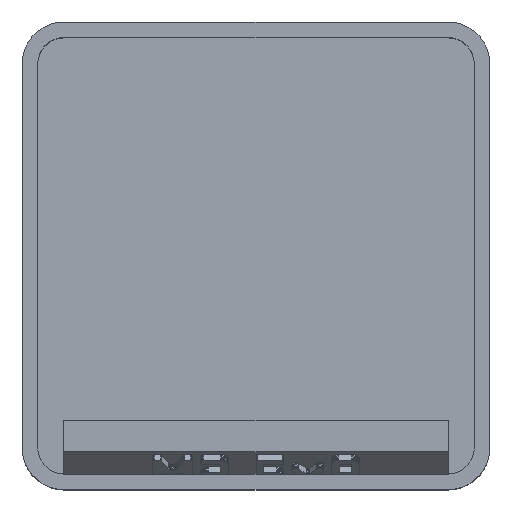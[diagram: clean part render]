
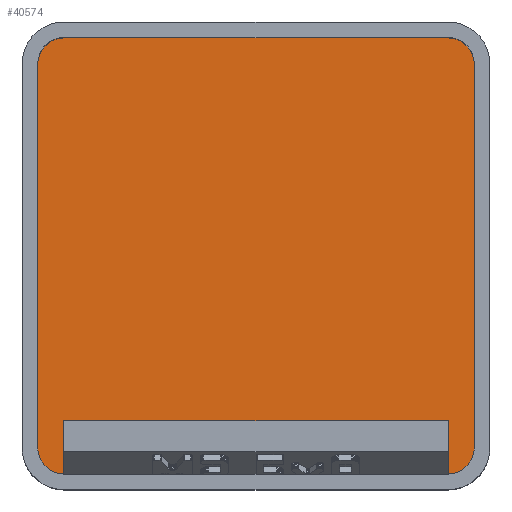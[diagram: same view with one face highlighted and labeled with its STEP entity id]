
A CAD part, top view. The second image highlights one B-rep face of the part: STEP entity #40574.
In plain terms, the highlighted planar face has unit normal (0, 0, 1).
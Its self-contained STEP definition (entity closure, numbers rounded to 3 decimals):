
#912 = PLANE('',#913);
#913 = AXIS2_PLACEMENT_3D('',#914,#915,#916);
#914 = CARTESIAN_POINT('',(-19.6,0.,25.));
#915 = DIRECTION('',(-1.,0.,0.));
#916 = DIRECTION('',(-0.,-1.,-0.));
#940 = CYLINDRICAL_SURFACE('',#941,2.35);
#941 = AXIS2_PLACEMENT_3D('',#942,#943,#944);
#942 = CARTESIAN_POINT('',(-17.25,17.25,5.95));
#943 = DIRECTION('',(-0.,-0.,1.));
#944 = DIRECTION('',(-1.,0.,0.));
#967 = PLANE('',#968);
#968 = AXIS2_PLACEMENT_3D('',#969,#970,#971);
#969 = CARTESIAN_POINT('',(0.,19.6,25.));
#970 = DIRECTION('',(0.,1.,0.));
#971 = DIRECTION('',(-1.,0.,0.));
#995 = CYLINDRICAL_SURFACE('',#996,2.35);
#996 = AXIS2_PLACEMENT_3D('',#997,#998,#999);
#997 = CARTESIAN_POINT('',(17.25,17.25,5.95));
#998 = DIRECTION('',(-0.,-0.,1.));
#999 = DIRECTION('',(-1.,0.,0.));
#1022 = PLANE('',#1023);
#1023 = AXIS2_PLACEMENT_3D('',#1024,#1025,#1026);
#1024 = CARTESIAN_POINT('',(19.6,0.,25.));
#1025 = DIRECTION('',(1.,0.,0.));
#1026 = DIRECTION('',(-0.,1.,0.));
#1050 = CYLINDRICAL_SURFACE('',#1051,2.35);
#1051 = AXIS2_PLACEMENT_3D('',#1052,#1053,#1054);
#1052 = CARTESIAN_POINT('',(17.25,-17.25,5.95));
#1053 = DIRECTION('',(-0.,-0.,1.));
#1054 = DIRECTION('',(-1.,0.,0.));
#1103 = CYLINDRICAL_SURFACE('',#1104,2.35);
#1104 = AXIS2_PLACEMENT_3D('',#1105,#1106,#1107);
#1105 = CARTESIAN_POINT('',(-17.25,-17.25,5.95));
#1106 = DIRECTION('',(-0.,-0.,1.));
#1107 = DIRECTION('',(-1.,0.,0.));
#15033 = EDGE_CURVE('',#15034,#15036,#15038,.T.);
#15034 = VERTEX_POINT('',#15035);
#15035 = CARTESIAN_POINT('',(-19.6,-17.25,5.95));
#15036 = VERTEX_POINT('',#15037);
#15037 = CARTESIAN_POINT('',(-19.6,17.25,5.95));
#15038 = SURFACE_CURVE('',#15039,(#15043,#15050),.PCURVE_S1.);
#15039 = LINE('',#15040,#15041);
#15040 = CARTESIAN_POINT('',(-19.6,0.,5.95));
#15041 = VECTOR('',#15042,1.);
#15042 = DIRECTION('',(0.,1.,0.));
#15043 = PCURVE('',#912,#15044);
#15044 = DEFINITIONAL_REPRESENTATION('',(#15045),#15049);
#15045 = LINE('',#15046,#15047);
#15046 = CARTESIAN_POINT('',(0.,-19.05));
#15047 = VECTOR('',#15048,1.);
#15048 = DIRECTION('',(-1.,0.));
#15049 = ( GEOMETRIC_REPRESENTATION_CONTEXT(2) 
PARAMETRIC_REPRESENTATION_CONTEXT() REPRESENTATION_CONTEXT('2D SPACE',''
  ) );
#15050 = PCURVE('',#15051,#15056);
#15051 = PLANE('',#15052);
#15052 = AXIS2_PLACEMENT_3D('',#15053,#15054,#15055);
#15053 = CARTESIAN_POINT('',(-17.25,-17.25,5.95));
#15054 = DIRECTION('',(0.,0.,-1.));
#15055 = DIRECTION('',(-1.,0.,0.));
#15056 = DEFINITIONAL_REPRESENTATION('',(#15057),#15061);
#15057 = LINE('',#15058,#15059);
#15058 = CARTESIAN_POINT('',(2.35,17.25));
#15059 = VECTOR('',#15060,1.);
#15060 = DIRECTION('',(0.,1.));
#15061 = ( GEOMETRIC_REPRESENTATION_CONTEXT(2) 
PARAMETRIC_REPRESENTATION_CONTEXT() REPRESENTATION_CONTEXT('2D SPACE',''
  ) );
#15108 = EDGE_CURVE('',#15109,#15034,#15111,.T.);
#15109 = VERTEX_POINT('',#15110);
#15110 = CARTESIAN_POINT('',(-17.25,-19.6,5.95));
#15111 = SURFACE_CURVE('',#15112,(#15117,#15124),.PCURVE_S1.);
#15112 = CIRCLE('',#15113,2.35);
#15113 = AXIS2_PLACEMENT_3D('',#15114,#15115,#15116);
#15114 = CARTESIAN_POINT('',(-17.25,-17.25,5.95));
#15115 = DIRECTION('',(0.,0.,-1.));
#15116 = DIRECTION('',(-1.,0.,0.));
#15117 = PCURVE('',#1103,#15118);
#15118 = DEFINITIONAL_REPRESENTATION('',(#15119),#15123);
#15119 = LINE('',#15120,#15121);
#15120 = CARTESIAN_POINT('',(6.283,0.));
#15121 = VECTOR('',#15122,1.);
#15122 = DIRECTION('',(-1.,0.));
#15123 = ( GEOMETRIC_REPRESENTATION_CONTEXT(2) 
PARAMETRIC_REPRESENTATION_CONTEXT() REPRESENTATION_CONTEXT('2D SPACE',''
  ) );
#15124 = PCURVE('',#15051,#15125);
#15125 = DEFINITIONAL_REPRESENTATION('',(#15126),#15130);
#15126 = CIRCLE('',#15127,2.35);
#15127 = AXIS2_PLACEMENT_2D('',#15128,#15129);
#15128 = CARTESIAN_POINT('',(0.,0.));
#15129 = DIRECTION('',(1.,0.));
#15130 = ( GEOMETRIC_REPRESENTATION_CONTEXT(2) 
PARAMETRIC_REPRESENTATION_CONTEXT() REPRESENTATION_CONTEXT('2D SPACE',''
  ) );
#15148 = PLANE('',#15149);
#15149 = AXIS2_PLACEMENT_3D('',#15150,#15151,#15152);
#15150 = CARTESIAN_POINT('',(0.,-19.6,25.));
#15151 = DIRECTION('',(0.,-1.,0.));
#15152 = DIRECTION('',(1.,0.,0.));
#15235 = EDGE_CURVE('',#15236,#15238,#15240,.T.);
#15236 = VERTEX_POINT('',#15237);
#15237 = CARTESIAN_POINT('',(19.6,-17.25,5.95));
#15238 = VERTEX_POINT('',#15239);
#15239 = CARTESIAN_POINT('',(17.25,-19.6,5.95));
#15240 = SURFACE_CURVE('',#15241,(#15246,#15253),.PCURVE_S1.);
#15241 = CIRCLE('',#15242,2.35);
#15242 = AXIS2_PLACEMENT_3D('',#15243,#15244,#15245);
#15243 = CARTESIAN_POINT('',(17.25,-17.25,5.95));
#15244 = DIRECTION('',(0.,0.,-1.));
#15245 = DIRECTION('',(-1.,0.,0.));
#15246 = PCURVE('',#1050,#15247);
#15247 = DEFINITIONAL_REPRESENTATION('',(#15248),#15252);
#15248 = LINE('',#15249,#15250);
#15249 = CARTESIAN_POINT('',(6.283,0.));
#15250 = VECTOR('',#15251,1.);
#15251 = DIRECTION('',(-1.,0.));
#15252 = ( GEOMETRIC_REPRESENTATION_CONTEXT(2) 
PARAMETRIC_REPRESENTATION_CONTEXT() REPRESENTATION_CONTEXT('2D SPACE',''
  ) );
#15253 = PCURVE('',#15051,#15254);
#15254 = DEFINITIONAL_REPRESENTATION('',(#15255),#15259);
#15255 = CIRCLE('',#15256,2.35);
#15256 = AXIS2_PLACEMENT_2D('',#15257,#15258);
#15257 = CARTESIAN_POINT('',(-34.5,0.));
#15258 = DIRECTION('',(1.,0.));
#15259 = ( GEOMETRIC_REPRESENTATION_CONTEXT(2) 
PARAMETRIC_REPRESENTATION_CONTEXT() REPRESENTATION_CONTEXT('2D SPACE',''
  ) );
#15333 = EDGE_CURVE('',#15236,#15334,#15336,.T.);
#15334 = VERTEX_POINT('',#15335);
#15335 = CARTESIAN_POINT('',(19.6,17.25,5.95));
#15336 = SURFACE_CURVE('',#15337,(#15341,#15348),.PCURVE_S1.);
#15337 = LINE('',#15338,#15339);
#15338 = CARTESIAN_POINT('',(19.6,0.,5.95));
#15339 = VECTOR('',#15340,1.);
#15340 = DIRECTION('',(0.,1.,0.));
#15341 = PCURVE('',#1022,#15342);
#15342 = DEFINITIONAL_REPRESENTATION('',(#15343),#15347);
#15343 = LINE('',#15344,#15345);
#15344 = CARTESIAN_POINT('',(0.,-19.05));
#15345 = VECTOR('',#15346,1.);
#15346 = DIRECTION('',(1.,0.));
#15347 = ( GEOMETRIC_REPRESENTATION_CONTEXT(2) 
PARAMETRIC_REPRESENTATION_CONTEXT() REPRESENTATION_CONTEXT('2D SPACE',''
  ) );
#15348 = PCURVE('',#15051,#15349);
#15349 = DEFINITIONAL_REPRESENTATION('',(#15350),#15354);
#15350 = LINE('',#15351,#15352);
#15351 = CARTESIAN_POINT('',(-36.85,17.25));
#15352 = VECTOR('',#15353,1.);
#15353 = DIRECTION('',(0.,1.));
#15354 = ( GEOMETRIC_REPRESENTATION_CONTEXT(2) 
PARAMETRIC_REPRESENTATION_CONTEXT() REPRESENTATION_CONTEXT('2D SPACE',''
  ) );
#15381 = EDGE_CURVE('',#15382,#15334,#15384,.T.);
#15382 = VERTEX_POINT('',#15383);
#15383 = CARTESIAN_POINT('',(17.25,19.6,5.95));
#15384 = SURFACE_CURVE('',#15385,(#15390,#15397),.PCURVE_S1.);
#15385 = CIRCLE('',#15386,2.35);
#15386 = AXIS2_PLACEMENT_3D('',#15387,#15388,#15389);
#15387 = CARTESIAN_POINT('',(17.25,17.25,5.95));
#15388 = DIRECTION('',(0.,0.,-1.));
#15389 = DIRECTION('',(-1.,0.,0.));
#15390 = PCURVE('',#995,#15391);
#15391 = DEFINITIONAL_REPRESENTATION('',(#15392),#15396);
#15392 = LINE('',#15393,#15394);
#15393 = CARTESIAN_POINT('',(6.283,0.));
#15394 = VECTOR('',#15395,1.);
#15395 = DIRECTION('',(-1.,0.));
#15396 = ( GEOMETRIC_REPRESENTATION_CONTEXT(2) 
PARAMETRIC_REPRESENTATION_CONTEXT() REPRESENTATION_CONTEXT('2D SPACE',''
  ) );
#15397 = PCURVE('',#15051,#15398);
#15398 = DEFINITIONAL_REPRESENTATION('',(#15399),#15403);
#15399 = CIRCLE('',#15400,2.35);
#15400 = AXIS2_PLACEMENT_2D('',#15401,#15402);
#15401 = CARTESIAN_POINT('',(-34.5,34.5));
#15402 = DIRECTION('',(1.,0.));
#15403 = ( GEOMETRIC_REPRESENTATION_CONTEXT(2) 
PARAMETRIC_REPRESENTATION_CONTEXT() REPRESENTATION_CONTEXT('2D SPACE',''
  ) );
#15431 = EDGE_CURVE('',#15432,#15382,#15434,.T.);
#15432 = VERTEX_POINT('',#15433);
#15433 = CARTESIAN_POINT('',(-17.25,19.6,5.95));
#15434 = SURFACE_CURVE('',#15435,(#15439,#15446),.PCURVE_S1.);
#15435 = LINE('',#15436,#15437);
#15436 = CARTESIAN_POINT('',(0.,19.6,5.95));
#15437 = VECTOR('',#15438,1.);
#15438 = DIRECTION('',(1.,0.,0.));
#15439 = PCURVE('',#967,#15440);
#15440 = DEFINITIONAL_REPRESENTATION('',(#15441),#15445);
#15441 = LINE('',#15442,#15443);
#15442 = CARTESIAN_POINT('',(0.,-19.05));
#15443 = VECTOR('',#15444,1.);
#15444 = DIRECTION('',(-1.,0.));
#15445 = ( GEOMETRIC_REPRESENTATION_CONTEXT(2) 
PARAMETRIC_REPRESENTATION_CONTEXT() REPRESENTATION_CONTEXT('2D SPACE',''
  ) );
#15446 = PCURVE('',#15051,#15447);
#15447 = DEFINITIONAL_REPRESENTATION('',(#15448),#15452);
#15448 = LINE('',#15449,#15450);
#15449 = CARTESIAN_POINT('',(-17.25,36.85));
#15450 = VECTOR('',#15451,1.);
#15451 = DIRECTION('',(-1.,0.));
#15452 = ( GEOMETRIC_REPRESENTATION_CONTEXT(2) 
PARAMETRIC_REPRESENTATION_CONTEXT() REPRESENTATION_CONTEXT('2D SPACE',''
  ) );
#15480 = EDGE_CURVE('',#15036,#15432,#15481,.T.);
#15481 = SURFACE_CURVE('',#15482,(#15487,#15494),.PCURVE_S1.);
#15482 = CIRCLE('',#15483,2.35);
#15483 = AXIS2_PLACEMENT_3D('',#15484,#15485,#15486);
#15484 = CARTESIAN_POINT('',(-17.25,17.25,5.95));
#15485 = DIRECTION('',(0.,0.,-1.));
#15486 = DIRECTION('',(-1.,0.,0.));
#15487 = PCURVE('',#940,#15488);
#15488 = DEFINITIONAL_REPRESENTATION('',(#15489),#15493);
#15489 = LINE('',#15490,#15491);
#15490 = CARTESIAN_POINT('',(6.283,0.));
#15491 = VECTOR('',#15492,1.);
#15492 = DIRECTION('',(-1.,0.));
#15493 = ( GEOMETRIC_REPRESENTATION_CONTEXT(2) 
PARAMETRIC_REPRESENTATION_CONTEXT() REPRESENTATION_CONTEXT('2D SPACE',''
  ) );
#15494 = PCURVE('',#15051,#15495);
#15495 = DEFINITIONAL_REPRESENTATION('',(#15496),#15500);
#15496 = CIRCLE('',#15497,2.35);
#15497 = AXIS2_PLACEMENT_2D('',#15498,#15499);
#15498 = CARTESIAN_POINT('',(0.,34.5));
#15499 = DIRECTION('',(1.,0.));
#15500 = ( GEOMETRIC_REPRESENTATION_CONTEXT(2) 
PARAMETRIC_REPRESENTATION_CONTEXT() REPRESENTATION_CONTEXT('2D SPACE',''
  ) );
#40574 = ADVANCED_FACE('',(#40575),#15051,.F.);
#40575 = FACE_BOUND('',#40576,.T.);
#40576 = EDGE_LOOP('',(#40577,#40578,#40579,#40600,#40601,#40602,#40603,
    #40604));
#40577 = ORIENTED_EDGE('',*,*,#15033,.F.);
#40578 = ORIENTED_EDGE('',*,*,#15108,.F.);
#40579 = ORIENTED_EDGE('',*,*,#40580,.T.);
#40580 = EDGE_CURVE('',#15109,#15238,#40581,.T.);
#40581 = SURFACE_CURVE('',#40582,(#40586,#40593),.PCURVE_S1.);
#40582 = LINE('',#40583,#40584);
#40583 = CARTESIAN_POINT('',(0.,-19.6,5.95));
#40584 = VECTOR('',#40585,1.);
#40585 = DIRECTION('',(1.,0.,0.));
#40586 = PCURVE('',#15051,#40587);
#40587 = DEFINITIONAL_REPRESENTATION('',(#40588),#40592);
#40588 = LINE('',#40589,#40590);
#40589 = CARTESIAN_POINT('',(-17.25,-2.35));
#40590 = VECTOR('',#40591,1.);
#40591 = DIRECTION('',(-1.,0.));
#40592 = ( GEOMETRIC_REPRESENTATION_CONTEXT(2) 
PARAMETRIC_REPRESENTATION_CONTEXT() REPRESENTATION_CONTEXT('2D SPACE',''
  ) );
#40593 = PCURVE('',#15148,#40594);
#40594 = DEFINITIONAL_REPRESENTATION('',(#40595),#40599);
#40595 = LINE('',#40596,#40597);
#40596 = CARTESIAN_POINT('',(0.,-19.05));
#40597 = VECTOR('',#40598,1.);
#40598 = DIRECTION('',(1.,0.));
#40599 = ( GEOMETRIC_REPRESENTATION_CONTEXT(2) 
PARAMETRIC_REPRESENTATION_CONTEXT() REPRESENTATION_CONTEXT('2D SPACE',''
  ) );
#40600 = ORIENTED_EDGE('',*,*,#15235,.F.);
#40601 = ORIENTED_EDGE('',*,*,#15333,.T.);
#40602 = ORIENTED_EDGE('',*,*,#15381,.F.);
#40603 = ORIENTED_EDGE('',*,*,#15431,.F.);
#40604 = ORIENTED_EDGE('',*,*,#15480,.F.);
